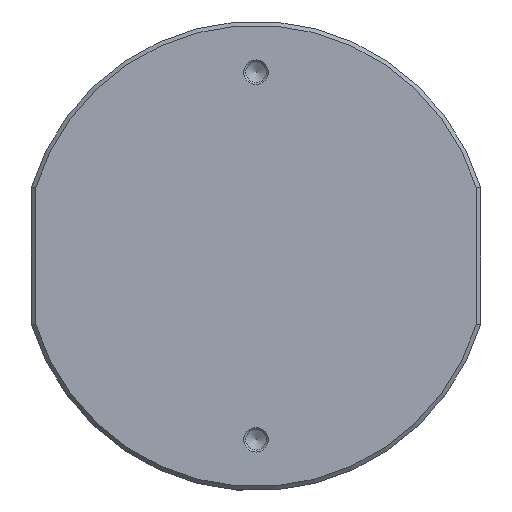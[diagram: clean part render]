
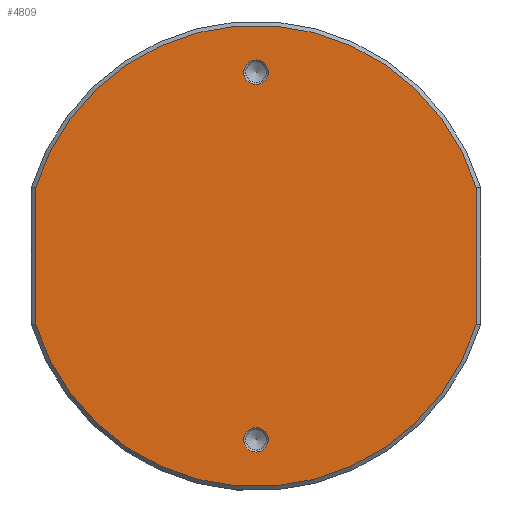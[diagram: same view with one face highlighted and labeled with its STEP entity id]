
A CAD part, front view. The second image highlights one B-rep face of the part: STEP entity #4809.
In plain terms, the highlighted planar face has unit normal (0, -1, 0).
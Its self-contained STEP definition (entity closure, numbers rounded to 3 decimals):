
#3001=LINE('',#23389,#3715);
#3002=LINE('',#23393,#3716);
#3715=VECTOR('',#18569,1.);
#3716=VECTOR('',#18572,1.);
#4383=PLANE('',#16415);
#4809=ADVANCED_FACE('',(#6132,#6133,#6134),#4383,.F.);
#6132=FACE_BOUND('',#6891,.T.);
#6133=FACE_BOUND('',#6892,.T.);
#6134=FACE_BOUND('',#6893,.T.);
#6891=EDGE_LOOP('',(#8464,#8465,#8466,#8467));
#6892=EDGE_LOOP('',(#8468));
#6893=EDGE_LOOP('',(#8469));
#8464=ORIENTED_EDGE('',*,*,#13527,.T.);
#8465=ORIENTED_EDGE('',*,*,#13528,.T.);
#8466=ORIENTED_EDGE('',*,*,#13529,.T.);
#8467=ORIENTED_EDGE('',*,*,#13530,.T.);
#8468=ORIENTED_EDGE('',*,*,#13531,.T.);
#8469=ORIENTED_EDGE('',*,*,#13532,.T.);
#12160=VERTEX_POINT('',#23387);
#12161=VERTEX_POINT('',#23388);
#12162=VERTEX_POINT('',#23390);
#12163=VERTEX_POINT('',#23392);
#12164=VERTEX_POINT('',#23395);
#12165=VERTEX_POINT('',#23397);
#13527=EDGE_CURVE('',#12160,#12161,#15401,.T.);
#13528=EDGE_CURVE('',#12161,#12162,#3001,.T.);
#13529=EDGE_CURVE('',#12162,#12163,#15402,.T.);
#13530=EDGE_CURVE('',#12163,#12160,#3002,.T.);
#13531=EDGE_CURVE('',#12164,#12164,#15403,.T.);
#13532=EDGE_CURVE('',#12165,#12165,#15404,.T.);
#15401=CIRCLE('',#16411,56.5);
#15402=CIRCLE('',#16412,56.5);
#15403=CIRCLE('',#16413,3.);
#15404=CIRCLE('',#16414,3.);
#16411=AXIS2_PLACEMENT_3D('',#23386,#18567,#18568);
#16412=AXIS2_PLACEMENT_3D('',#23391,#18570,#18571);
#16413=AXIS2_PLACEMENT_3D('',#23394,#18573,#18574);
#16414=AXIS2_PLACEMENT_3D('',#23396,#18575,#18576);
#16415=AXIS2_PLACEMENT_3D('',#23398,#18577,#18578);
#18567=DIRECTION('',(0.,-1.,0.));
#18568=DIRECTION('',(0.,0.,1.));
#18569=DIRECTION('',(0.,0.,-1.));
#18570=DIRECTION('',(0.,-1.,0.));
#18571=DIRECTION('',(0.,0.,1.));
#18572=DIRECTION('',(0.,0.,1.));
#18573=DIRECTION('',(0.,1.,0.));
#18574=DIRECTION('',(0.,0.,1.));
#18575=DIRECTION('',(0.,1.,0.));
#18576=DIRECTION('',(0.,0.,1.));
#18577=DIRECTION('',(0.,1.,0.));
#18578=DIRECTION('',(0.,0.,-1.));
#23386=CARTESIAN_POINT('',(45.,-3.,-48.5));
#23387=CARTESIAN_POINT('',(99.,-3.,-31.879));
#23388=CARTESIAN_POINT('',(-9.,-3.,-31.879));
#23389=CARTESIAN_POINT('',(-9.,-3.,-97.));
#23390=CARTESIAN_POINT('',(-9.,-3.,-65.121));
#23391=CARTESIAN_POINT('',(45.,-3.,-48.5));
#23392=CARTESIAN_POINT('',(99.,-3.,-65.121));
#23393=CARTESIAN_POINT('',(99.,-3.,-97.));
#23394=CARTESIAN_POINT('',(45.,-3.,-93.5));
#23395=CARTESIAN_POINT('',(45.,-3.,-90.5));
#23396=CARTESIAN_POINT('',(45.,-3.,-3.5));
#23397=CARTESIAN_POINT('',(45.,-3.,-0.5));
#23398=CARTESIAN_POINT('',(0.,-3.,-97.));
